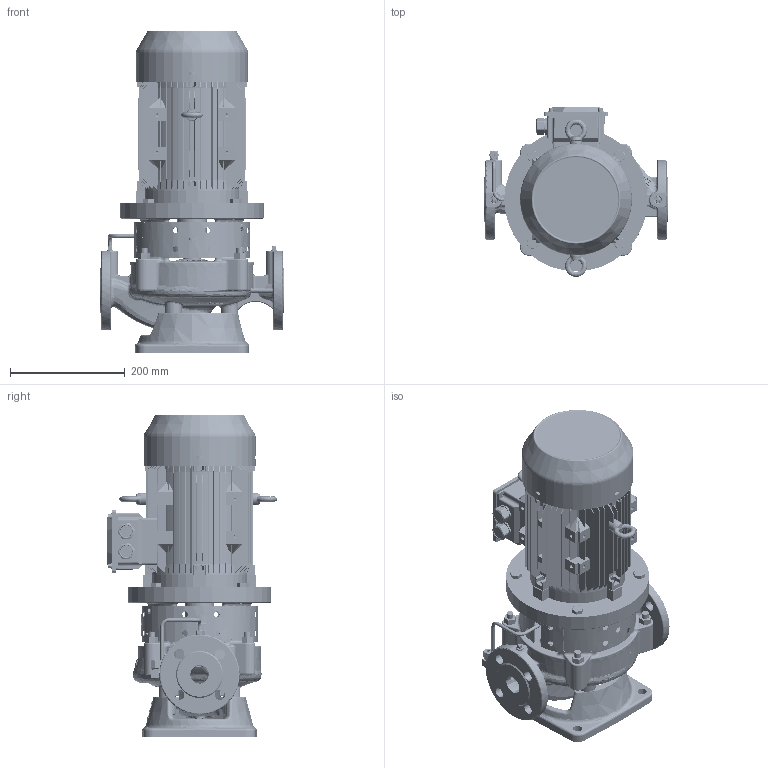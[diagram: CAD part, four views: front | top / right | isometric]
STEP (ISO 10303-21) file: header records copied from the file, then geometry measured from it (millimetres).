
FILE_DESCRIPTION((''),'2;1');
FILE_NAME('421841_ASM','2026-08-12T08:50:21',('brhe'),(''),'CREO PARAMETRIC BY PTC INC, 2023424','CREO PARAMETRIC BY PTC INC, 2023424','');
FILE_SCHEMA(('CONFIG_CONTROL_DESIGN'));
Products named in the file (32): 567583; 567560; 567543; 3141-000BA116; 3144-000BA116; 693229-PIPE; 704390; 760085; 700227; 704063; 693229_ASM; 115747; 115748; 694415_ASM; 694295_ASM; 560940; 115363_AF4; 708791; 115635; 708002; 700306; 720488; 703239; 694300_ASM; 712093_AF0; 721416; 694303_ASM; 32138015; 700313; 2037777_ASM; 852200; 421841_ASM
Assembly tree (52 placements, depth 5):
  421841_ASM
    693229_ASM
      567583
      567560
      567543
      3141-000BA116
      3144-000BA116
      693229-PIPE
      704390  x3
      760085
      700227  x4
      704063  x4
    694300_ASM
      694295_ASM
        694415_ASM
          115747
          115748
      560940
      115363_AF4
      708791  x4
      115635
      708002  x3
      700306  x3
      720488  x4
      703239  x2
    694303_ASM
      712093_AF0
      721416
    2037777_ASM
      32138015
      700313  x3
    852200
Bounding box: 320 x 296.6 x 563.49 mm (x, y, z)
Volume: 9224686.6 mm3; surface area: 1837259.2 mm2
Topology: 46 solids, 81 shells, 5566 faces, 14607 edges, 9343 vertices
Faces by surface type: plane 2100, cylinder 1209, bspline 800, extrusion 632, cone 502, torus 285, sphere 32, revolution 6
Entity records: 299532 total; most frequent: CARTESIAN_POINT 178657, ORIENTED_EDGE 27466, DIRECTION 21031, EDGE_CURVE 13817, VERTEX_POINT 8894, AXIS2_PLACEMENT_3D 7708, EDGE_LOOP 5707, B_SPLINE_CURVE_WITH_KNOTS 5676
